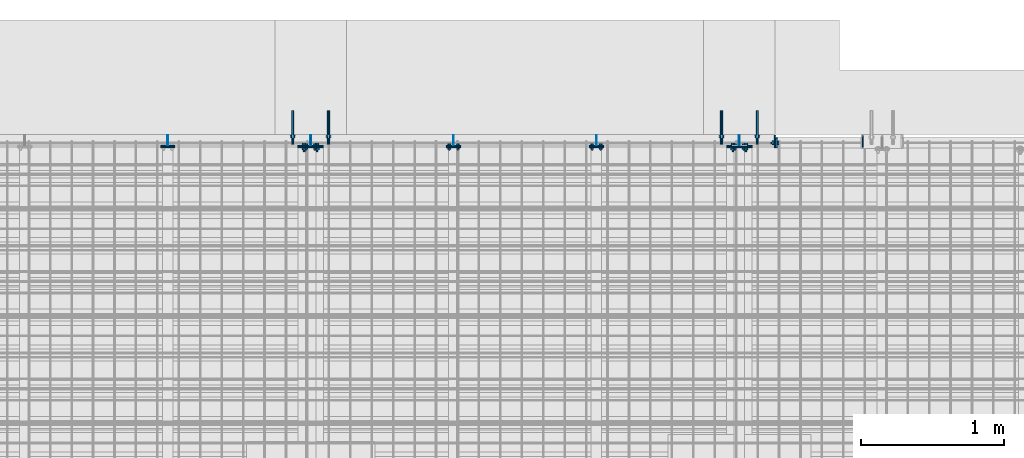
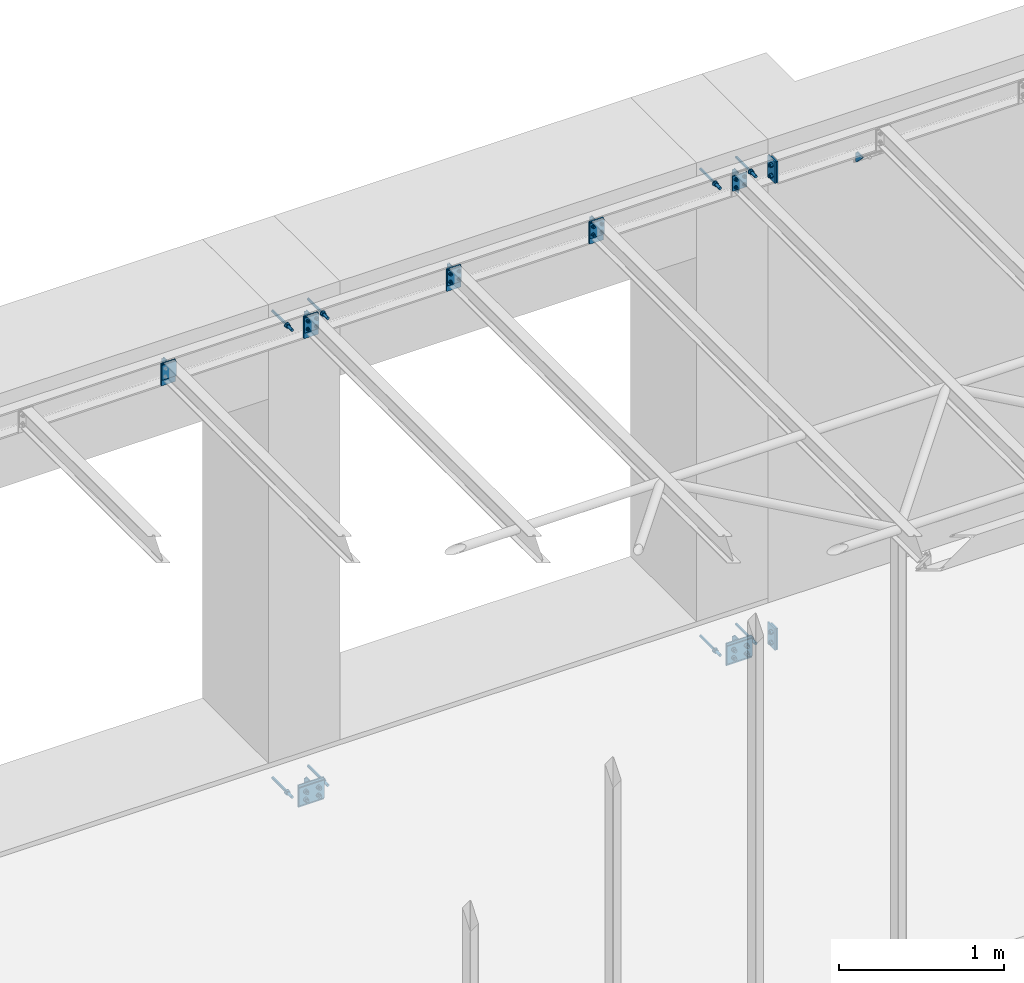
# One storey, part 24 of 27: 25 discrete accessories, 12 mechanical fasteners, 12 elements without a shape of their own.
"""IFC2X3 building model written with IfcOpenShell, lengths in millimetres."""

from ifc_helpers import new_model, si_unit, frame, frame_2d, origin_with_axes, origin_2d_with_axis, place, context, subcontext, project, spatial, polyline, circle_curve, parameter, trimmed, segment, composite_curve, circle, outline, extrude, source, transform, mapped, material, type_object, element, aggregate, save


model = new_model("IFC2X3")

# Units and contexts
model_context = context("Model", 3, precision=1e-05, world=origin_with_axes())
body_context = subcontext(model_context, "Body", "Model", "MODEL_VIEW")
ifc_project = project(units=[si_unit("LENGTHUNIT", "METRE", prefix="MILLI"), si_unit("AREAUNIT", "SQUARE_METRE"), si_unit("VOLUMEUNIT", "CUBIC_METRE"), si_unit("MASSUNIT", "GRAM", prefix="KILO"), si_unit("TIMEUNIT", "SECOND"), si_unit("PLANEANGLEUNIT", "RADIAN"), si_unit("SOLIDANGLEUNIT", "STERADIAN"), si_unit("THERMODYNAMICTEMPERATUREUNIT", "DEGREE_CELSIUS"), si_unit("LUMINOUSINTENSITYUNIT", "LUMEN")], contexts=[model_context])

# Site, building, storey
site_placement = place(None, origin_with_axes())
site = spatial("IfcSite", under=ifc_project, at=site_placement, Name="Undefined", CompositionType="ELEMENT")
building_placement = place(site_placement, origin_with_axes())
building = spatial("IfcBuilding", under=site, at=building_placement, Name="Undefined", CompositionType="ELEMENT")
storey_placement = place(building_placement, origin_with_axes())
storey = spatial("IfcBuildingStorey", under=building, at=storey_placement, Name="Undefined", CompositionType="ELEMENT", Elevation=0.0)

# Assembly, mechanical fastener
assembly_1_placement = place(storey_placement, origin_with_axes())
assembly_1 = element("IfcElementAssembly", 1, at=assembly_1_placement, inside=storey, Name="Steel Assembly", AssemblyPlace="NOTDEFINED", PredefinedType="RIGID_FRAME")
ifc_material_1 = material(Name="Undefined")
discrete_accessory_type_1 = type_object("IfcDiscreteAccessoryType", Name="Bolt assembly")
shared_shape_1 = source(origin_with_axes(), body_context, "Body", "SweptSolid", [
    extrude(circle(Radius=9.0, at=origin_2d_with_axis()), frame((0.0, -0.1, 0.0), z_axis=(0.0, 1.0, 0.0), x_axis=(1.0, 0.0, 0.0)), (0.0, 0.0, 1.0), 10.1),
    extrude(circle(Radius=9.0, at=origin_2d_with_axis()), frame((0.0, -9.9, 0.0), z_axis=(0.0, 1.0, 0.0), x_axis=(1.0, 0.0, 0.0)), (0.0, 0.0, 1.0), 10.0),
    extrude(outline(polyline([(13.85640646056, 0.0), (6.92820323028, 12.0000000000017), (-6.92820323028, 12.0000000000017), (-13.85640646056, 0.0), (-6.92820323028, -12.0000000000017), (6.92820323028, -12.0000000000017), (13.85640646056, 0.0)])), frame((0.0, -23.0, 0.0), z_axis=(0.0, 1.0, 0.0), x_axis=(1.0, 0.0, 0.0)), (0.0, 0.0, 1.0), 10.0),
    extrude(circle(Radius=8.0, at=origin_2d_with_axis()), frame((0.0, -13.0, 0.0), z_axis=(0.0, 1.0, 0.0), x_axis=(1.0, 0.0, 0.0)), (0.0, 0.0, 1.0), 50.0),
    extrude(circle(Radius=15.0, at=origin_2d_with_axis()), frame((0.0, -13.0, 0.0), z_axis=(0.0, 1.0, 0.0), x_axis=(1.0, 0.0, 0.0)), (0.0, 0.0, 1.0), 3.0),
    extrude(circle(Radius=15.0, at=origin_2d_with_axis()), frame((0.0, 10.0, 0.0), z_axis=(0.0, 1.0, 0.0), x_axis=(1.0, 0.0, 0.0)), (0.0, 0.0, 1.0), 3.0),
    extrude(outline(polyline([(15.4441197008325, 0.0), (7.72205985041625, 13.3750000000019), (-7.72205985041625, 13.3750000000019), (-15.4441197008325, 0.0), (-7.72205985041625, -13.3750000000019), (7.72205985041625, -13.3750000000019), (15.4441197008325, 0.0)])), frame((0.0, 13.0, 0.0), z_axis=(0.0, 1.0, 0.0), x_axis=(1.0, 0.0, 0.0)), (0.0, 0.0, 1.0), 13.0),
])
mechanical_fastener_1_placement = place(assembly_1_placement, frame((12305.0, 3800.0, -249.999999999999), z_axis=(0.0, 0.0, 1.0), x_axis=(0.0, 1.0, 0.0)))
mechanical_fastener_1 = element("IfcMechanicalFastener", 2, at=mechanical_fastener_1_placement, type_object=discrete_accessory_type_1, material=ifc_material_1, Name="Bolt assembly", NominalDiameter=16.0, NominalLength=50.0, context=body_context, shape_type="MappedRepresentation", body=[
    mapped(shared_shape_1, transform((0.0, 0.0, -40.0))),
    mapped(shared_shape_1, transform((0.0, 0.0, 40.0))),
])

assembly_2_placement = place(storey_placement, origin_with_axes())
assembly_2 = element("IfcElementAssembly", 3, at=assembly_2_placement, inside=storey, Name="Steel Assembly", AssemblyPlace="NOTDEFINED", PredefinedType="RIGID_FRAME")
mechanical_fastener_2_placement = place(assembly_2_placement, frame((12305.0, 3800.0, 3210.0), z_axis=(0.0, 0.0, 1.0), x_axis=(0.0, 1.0, 0.0)))
mechanical_fastener_2 = element("IfcMechanicalFastener", 4, at=mechanical_fastener_2_placement, type_object=discrete_accessory_type_1, material=ifc_material_1, Name="Bolt assembly", NominalDiameter=16.0, NominalLength=50.0, context=body_context, shape_type="MappedRepresentation", body=[
    mapped(shared_shape_1, transform((0.0, 0.0, -40.0))),
    mapped(shared_shape_1, transform((0.0, 0.0, 40.0))),
])

# Assembly, discrete accessory
assembly_3_placement = place(storey_placement, origin_with_axes())
assembly_3 = element("IfcElementAssembly", 5, at=assembly_3_placement, inside=storey, Name="Steel Assembly", AssemblyPlace="NOTDEFINED", PredefinedType="RIGID_FRAME")
ifc_material_2 = material(Name="STEEL/S235JR")
discrete_accessory_type_2 = type_object("IfcDiscreteAccessoryType", Name="PLECH")
discrete_accessory_1_placement = place(assembly_3_placement, frame((12300.0, 3855.0, -170.5), z_axis=(1.0, 0.0, 0.0), x_axis=(0.0, -1.0, 0.0)))
discrete_accessory_1 = element("IfcDiscreteAccessory", 6, at=discrete_accessory_1_placement, type_object=discrete_accessory_type_2, material=ifc_material_2, Name="PLECH", ObjectType="PL10*90", context=body_context, shape_type="SweptSolid", body=[
    extrude(outline(polyline([(0.0, 0.0), (90.0, 4.54747350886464e-13), (90.0, 159.0), (-3.63797880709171e-12, 159.0), (0.0, 0.0)])), frame((0.0, 0.0, -5.0), z_axis=(0.0, 0.0, 1.0), x_axis=(1.0, 0.0, 0.0)), (0.0, 0.0, 1.0), 10.0),
])

# Discrete accessory
discrete_accessory_2_placement = place(assembly_1_placement, frame((12310.0, 3835.0, -170.5), z_axis=(1.0, 0.0, 0.0), x_axis=(0.0, -1.0, 0.0)))
discrete_accessory_2 = element("IfcDiscreteAccessory", 7, at=discrete_accessory_2_placement, type_object=discrete_accessory_type_2, material=ifc_material_2, Name="PLECH", ObjectType="PL10*70", context=body_context, shape_type="SweptSolid", body=[
    extrude(outline(polyline([(0.0, 0.0), (70.0, 4.54747350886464e-13), (70.0, 159.0), (-3.63797880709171e-12, 159.0), (0.0, 0.0)])), frame((0.0, 0.0, -5.0), z_axis=(0.0, 0.0, 1.0), x_axis=(1.0, 0.0, 0.0)), (0.0, 0.0, 1.0), 10.0),
])

aggregate(assembly_1, [mechanical_fastener_1, discrete_accessory_2])

# Assembly, discrete accessory
assembly_4_placement = place(storey_placement, origin_with_axes())
assembly_4 = element("IfcElementAssembly", 8, at=assembly_4_placement, inside=storey, Name="Steel Assembly", AssemblyPlace="NOTDEFINED", PredefinedType="RIGID_FRAME")
discrete_accessory_3_placement = place(assembly_4_placement, frame((12300.0, 3855.0, 3289.5), z_axis=(1.0, 0.0, 0.0), x_axis=(0.0, -1.0, 0.0)))
discrete_accessory_3 = element("IfcDiscreteAccessory", 9, at=discrete_accessory_3_placement, type_object=discrete_accessory_type_2, material=ifc_material_2, Name="PLECH", ObjectType="PL10*90", context=body_context, shape_type="SweptSolid", body=[
    extrude(outline(polyline([(0.0, 0.0), (90.0, 4.54747350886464e-13), (90.0, 159.0), (-3.63797880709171e-12, 159.0), (0.0, 0.0)])), frame((0.0, 0.0, -5.0), z_axis=(0.0, 0.0, 1.0), x_axis=(1.0, 0.0, 0.0)), (0.0, 0.0, 1.0), 10.0),
])

# Discrete accessory
discrete_accessory_4_placement = place(assembly_2_placement, frame((12310.0, 3835.0, 3289.5), z_axis=(1.0, 0.0, 0.0), x_axis=(0.0, -1.0, 0.0)))
discrete_accessory_4 = element("IfcDiscreteAccessory", 10, at=discrete_accessory_4_placement, type_object=discrete_accessory_type_2, material=ifc_material_2, Name="PLECH", ObjectType="PL10*70", context=body_context, shape_type="SweptSolid", body=[
    extrude(outline(polyline([(0.0, 0.0), (70.0, 4.54747350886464e-13), (70.0, 159.0), (-3.63797880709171e-12, 159.0), (0.0, 0.0)])), frame((0.0, 0.0, -5.0), z_axis=(0.0, 0.0, 1.0), x_axis=(1.0, 0.0, 0.0)), (0.0, 0.0, 1.0), 10.0),
])

aggregate(assembly_2, [mechanical_fastener_2, discrete_accessory_4])

# Assembly, discrete accessory
assembly_5_placement = place(storey_placement, origin_with_axes())
assembly_5 = element("IfcElementAssembly", 11, at=assembly_5_placement, inside=storey, Name="Steel Assembly", AssemblyPlace="NOTDEFINED", PredefinedType="RIGID_FRAME")
discrete_accessory_5_placement = place(assembly_5_placement, frame((12914.0, 3770.0, 3110.0), z_axis=(-1.0, 0.0, 0.0), x_axis=(0.0, 1.0, 0.0)))
discrete_accessory_5 = element("IfcDiscreteAccessory", 12, at=discrete_accessory_5_placement, type_object=discrete_accessory_type_2, material=ifc_material_2, Name="PLECH", ObjectType="PL8*80", context=body_context, shape_type="SweptSolid", body=[
    extrude(outline(composite_curve([segment(polyline([(0.0, 0.0), (65.0, 0.0)]), True, "CONTINUOUS"), segment(trimmed(circle_curve(frame_2d((80.0, 0.0), x_axis=(-1.0, 0.0)), 15.0), [parameter(0.0)], [parameter(4.71238898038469)], False, "PARAMETER"), True, "CONTINUOUS"), segment(polyline([(80.0, 15.0), (80.0, 80.0), (70.0, 80.0), (0.0, 10.0), (0.0, 0.0)]), True, "DISCONTINUOUS")], self_intersect=False)), frame((0.0, 0.0, -4.0), z_axis=(0.0, 0.0, 1.0), x_axis=(1.0, 0.0, 0.0)), (0.0, 0.0, 1.0), 8.0),
])
aggregate(assembly_5, [discrete_accessory_5])

# Discrete accessory
discrete_accessory_6_placement = place(assembly_3_placement, frame((11960.0, 3780.0, -168.0), z_axis=(0.0, 1.0, 0.0), x_axis=(1.0, 0.0, 0.0)))
discrete_accessory_6 = element("IfcDiscreteAccessory", 13, at=discrete_accessory_6_placement, type_object=discrete_accessory_type_2, material=ifc_material_2, Name="PLECH", ObjectType="PL10*164", context=body_context, shape_type="SweptSolid", body=[
    extrude(outline(polyline([(0.0, 0.0), (180.0, 0.0), (180.0, 164.0), (0.0, 164.0), (0.0, 0.0)])), frame((0.0, 0.0, -5.0), z_axis=(0.0, 0.0, 1.0), x_axis=(1.0, 0.0, 0.0)), (0.0, 0.0, 1.0), 10.0),
])

discrete_accessory_7_placement = place(assembly_3_placement, frame((12050.0, 3785.0, -170.5), z_axis=(-1.0, 0.0, 0.0), x_axis=(0.0, 1.0, 0.0)))
discrete_accessory_7 = element("IfcDiscreteAccessory", 14, at=discrete_accessory_7_placement, type_object=discrete_accessory_type_2, material=ifc_material_2, Name="PLECH", ObjectType="PL8*70", context=body_context, shape_type="SweptSolid", body=[
    extrude(outline(composite_curve([segment(polyline([(0.0, 0.0), (49.5, 0.0)]), True, "CONTINUOUS"), segment(trimmed(circle_curve(frame_2d((69.5, 0.0), x_axis=(-1.0, 0.0)), 20.0), [parameter(0.0)], [parameter(4.71238898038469)], False, "PARAMETER"), True, "CONTINUOUS"), segment(polyline([(69.5, 20.0), (69.5, 139.0)]), True, "CONTINUOUS"), segment(trimmed(circle_curve(frame_2d((69.5, 159.0), x_axis=(0.0, -1.0)), 20.0), [parameter(0.0)], [parameter(4.71238898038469)], False, "PARAMETER"), True, "CONTINUOUS"), segment(polyline([(49.5, 159.0), (-3.63797880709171e-12, 159.0), (0.0, 0.0)]), True, "DISCONTINUOUS")], self_intersect=False)), frame((0.0, 0.0, -4.0), z_axis=(0.0, 0.0, 1.0), x_axis=(1.0, 0.0, 0.0)), (0.0, 0.0, 1.0), 8.0),
])

# Assembly, discrete accessory
assembly_6_placement = place(storey_placement, origin_with_axes())
assembly_6 = element("IfcElementAssembly", 15, at=assembly_6_placement, inside=storey, Name="Steel Assembly", AssemblyPlace="NOTDEFINED", PredefinedType="RIGID_FRAME")
discrete_accessory_8_placement = place(assembly_6_placement, frame((11960.0, 3771.0, -184.0), z_axis=(0.0, 1.0, 0.0), x_axis=(1.0, 0.0, 0.0)))
discrete_accessory_8 = element("IfcDiscreteAccessory", 16, at=discrete_accessory_8_placement, type_object=discrete_accessory_type_2, material=ifc_material_2, Name="PLECH", ObjectType="PL8*132", context=body_context, shape_type="SweptSolid", body=[
    extrude(outline(polyline([(0.0, 0.0), (180.0, 0.0), (180.0, 132.0), (0.0, 132.0), (0.0, 0.0)])), frame((0.0, 0.0, -4.0), z_axis=(0.0, 0.0, 1.0), x_axis=(1.0, 0.0, 0.0)), (0.0, 0.0, 1.0), 8.0),
])
aggregate(assembly_6, [discrete_accessory_8])

# Discrete accessory
discrete_accessory_9_placement = place(assembly_3_placement, frame((8960.0, 3780.0, -168.0), z_axis=(0.0, 1.0, 0.0), x_axis=(1.0, 0.0, 0.0)))
discrete_accessory_9 = element("IfcDiscreteAccessory", 17, at=discrete_accessory_9_placement, type_object=discrete_accessory_type_2, material=ifc_material_2, Name="PLECH", ObjectType="PL10*164", context=body_context, shape_type="SweptSolid", body=[
    extrude(outline(polyline([(0.0, 0.0), (180.0, 0.0), (180.0, 164.0), (0.0, 164.0), (0.0, 0.0)])), frame((0.0, 0.0, -5.0), z_axis=(0.0, 0.0, 1.0), x_axis=(1.0, 0.0, 0.0)), (0.0, 0.0, 1.0), 10.0),
])

discrete_accessory_10_placement = place(assembly_3_placement, frame((9050.0, 3785.0, -170.5), z_axis=(-1.0, 0.0, 0.0), x_axis=(0.0, 1.0, 0.0)))
discrete_accessory_10 = element("IfcDiscreteAccessory", 18, at=discrete_accessory_10_placement, type_object=discrete_accessory_type_2, material=ifc_material_2, Name="PLECH", ObjectType="PL8*70", context=body_context, shape_type="SweptSolid", body=[
    extrude(outline(composite_curve([segment(polyline([(0.0, 0.0), (49.5, 0.0)]), True, "CONTINUOUS"), segment(trimmed(circle_curve(frame_2d((69.5, 0.0), x_axis=(-1.0, 0.0)), 20.0), [parameter(0.0)], [parameter(4.71238898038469)], False, "PARAMETER"), True, "CONTINUOUS"), segment(polyline([(69.5, 20.0), (69.5, 139.0)]), True, "CONTINUOUS"), segment(trimmed(circle_curve(frame_2d((69.5, 159.0), x_axis=(0.0, -1.0)), 20.0), [parameter(0.0)], [parameter(4.71238898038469)], False, "PARAMETER"), True, "CONTINUOUS"), segment(polyline([(49.5, 159.0), (-3.63797880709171e-12, 159.0), (0.0, 0.0)]), True, "DISCONTINUOUS")], self_intersect=False)), frame((0.0, 0.0, -4.0), z_axis=(0.0, 0.0, 1.0), x_axis=(1.0, 0.0, 0.0)), (0.0, 0.0, 1.0), 8.0),
])

# Assembly, discrete accessory
assembly_7_placement = place(storey_placement, origin_with_axes())
assembly_7 = element("IfcElementAssembly", 19, at=assembly_7_placement, inside=storey, Name="Steel Assembly", AssemblyPlace="NOTDEFINED", PredefinedType="RIGID_FRAME")
discrete_accessory_11_placement = place(assembly_7_placement, frame((8960.0, 3771.0, -184.0), z_axis=(0.0, 1.0, 0.0), x_axis=(1.0, 0.0, 0.0)))
discrete_accessory_11 = element("IfcDiscreteAccessory", 20, at=discrete_accessory_11_placement, type_object=discrete_accessory_type_2, material=ifc_material_2, Name="PLECH", ObjectType="PL8*132", context=body_context, shape_type="SweptSolid", body=[
    extrude(outline(polyline([(0.0, 0.0), (180.0, 0.0), (180.0, 132.0), (0.0, 132.0), (0.0, 0.0)])), frame((0.0, 0.0, -4.0), z_axis=(0.0, 0.0, 1.0), x_axis=(1.0, 0.0, 0.0)), (0.0, 0.0, 1.0), 8.0),
])
aggregate(assembly_7, [discrete_accessory_11])

# Discrete accessory
discrete_accessory_12_placement = place(assembly_4_placement, frame((12050.0, 3785.0, 3289.5), z_axis=(-1.0, 0.0, 0.0), x_axis=(0.0, 1.0, 0.0)))
discrete_accessory_12 = element("IfcDiscreteAccessory", 21, at=discrete_accessory_12_placement, type_object=discrete_accessory_type_2, material=ifc_material_2, Name="PLECH", ObjectType="PL6*70", context=body_context, shape_type="SweptSolid", body=[
    extrude(outline(composite_curve([segment(polyline([(0.0, 0.0), (49.5, 0.0)]), True, "CONTINUOUS"), segment(trimmed(circle_curve(frame_2d((69.5, 0.0), x_axis=(-1.0, 0.0)), 20.0), [parameter(0.0)], [parameter(4.71238898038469)], False, "PARAMETER"), True, "CONTINUOUS"), segment(polyline([(69.5, 20.0), (69.5, 139.0)]), True, "CONTINUOUS"), segment(trimmed(circle_curve(frame_2d((69.5, 159.0), x_axis=(0.0, -1.0)), 20.0), [parameter(0.0)], [parameter(4.71238898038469)], False, "PARAMETER"), True, "CONTINUOUS"), segment(polyline([(49.5, 159.0), (-3.63797880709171e-12, 159.0), (0.0, 0.0)]), True, "DISCONTINUOUS")], self_intersect=False)), frame((0.0, 0.0, -3.0), z_axis=(0.0, 0.0, 1.0), x_axis=(1.0, 0.0, 0.0)), (0.0, 0.0, 1.0), 6.0),
])

# Assembly, discrete accessory
assembly_8_placement = place(storey_placement, origin_with_axes())
assembly_8 = element("IfcElementAssembly", 22, at=assembly_8_placement, inside=storey, Name="Steel Assembly", AssemblyPlace="NOTDEFINED", PredefinedType="RIGID_FRAME")
discrete_accessory_13_placement = place(assembly_8_placement, frame((12000.0, 3771.0, 3175.0), z_axis=(0.0, 1.0, 0.0), x_axis=(0.0, 0.0, 1.0)))
discrete_accessory_13 = element("IfcDiscreteAccessory", 23, at=discrete_accessory_13_placement, type_object=discrete_accessory_type_2, material=ifc_material_2, Name="PLECH", ObjectType="PL8*100", context=body_context, shape_type="SweptSolid", body=[
    extrude(outline(polyline([(0.0, 0.0), (110.0, 0.0), (110.0, 100.0), (-9.09494701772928e-13, 100.0), (0.0, 0.0)])), frame((0.0, 0.0, -4.0), z_axis=(0.0, 0.0, 1.0), x_axis=(1.0, 0.0, 0.0)), (0.0, 0.0, 1.0), 8.0),
])
aggregate(assembly_8, [discrete_accessory_13])

# Discrete accessory
discrete_accessory_14_placement = place(assembly_4_placement, frame((11050.0, 3785.0, 3289.5), z_axis=(-1.0, 0.0, 0.0), x_axis=(0.0, 1.0, 0.0)))
discrete_accessory_14 = element("IfcDiscreteAccessory", 24, at=discrete_accessory_14_placement, type_object=discrete_accessory_type_2, material=ifc_material_2, Name="PLECH", ObjectType="PL6*70", context=body_context, shape_type="SweptSolid", body=[
    extrude(outline(composite_curve([segment(polyline([(0.0, 0.0), (49.5, 0.0)]), True, "CONTINUOUS"), segment(trimmed(circle_curve(frame_2d((69.5, 0.0), x_axis=(-1.0, 0.0)), 20.0), [parameter(0.0)], [parameter(4.71238898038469)], False, "PARAMETER"), True, "CONTINUOUS"), segment(polyline([(69.5, 20.0), (69.5, 139.0)]), True, "CONTINUOUS"), segment(trimmed(circle_curve(frame_2d((69.5, 159.0), x_axis=(0.0, -1.0)), 20.0), [parameter(0.0)], [parameter(4.71238898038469)], False, "PARAMETER"), True, "CONTINUOUS"), segment(polyline([(49.5, 159.0), (-3.63797880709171e-12, 159.0), (0.0, 0.0)]), True, "DISCONTINUOUS")], self_intersect=False)), frame((0.0, 0.0, -3.0), z_axis=(0.0, 0.0, 1.0), x_axis=(1.0, 0.0, 0.0)), (0.0, 0.0, 1.0), 6.0),
])

# Assembly, discrete accessory
assembly_9_placement = place(storey_placement, origin_with_axes())
assembly_9 = element("IfcElementAssembly", 25, at=assembly_9_placement, inside=storey, Name="Steel Assembly", AssemblyPlace="NOTDEFINED", PredefinedType="RIGID_FRAME")
discrete_accessory_15_placement = place(assembly_9_placement, frame((11000.0, 3771.0, 3175.0), z_axis=(0.0, 1.0, 0.0), x_axis=(0.0, 0.0, 1.0)))
discrete_accessory_15 = element("IfcDiscreteAccessory", 26, at=discrete_accessory_15_placement, type_object=discrete_accessory_type_2, material=ifc_material_2, Name="PLECH", ObjectType="PL8*100", context=body_context, shape_type="SweptSolid", body=[
    extrude(outline(polyline([(0.0, 0.0), (110.0, 0.0), (110.0, 100.0), (-9.09494701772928e-13, 100.0), (0.0, 0.0)])), frame((0.0, 0.0, -4.0), z_axis=(0.0, 0.0, 1.0), x_axis=(1.0, 0.0, 0.0)), (0.0, 0.0, 1.0), 8.0),
])
aggregate(assembly_9, [discrete_accessory_15])

# Discrete accessory
discrete_accessory_16_placement = place(assembly_4_placement, frame((11000.0, 3780.0, 3128.0), z_axis=(0.0, 1.0, 0.0), x_axis=(0.0, 0.0, 1.0)))
discrete_accessory_16 = element("IfcDiscreteAccessory", 27, at=discrete_accessory_16_placement, type_object=discrete_accessory_type_2, material=ifc_material_2, Name="PLECH", ObjectType="PL10*100", context=body_context, shape_type="SweptSolid", body=[
    extrude(outline(polyline([(0.0, 0.0), (164.0, 4.54747350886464e-13), (164.0, 100.0), (-9.09494701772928e-13, 100.0), (0.0, 0.0)])), frame((0.0, 0.0, -5.0), z_axis=(0.0, 0.0, 1.0), x_axis=(1.0, 0.0, 0.0)), (0.0, 0.0, 1.0), 10.0),
])

discrete_accessory_17_placement = place(assembly_4_placement, frame((10050.0, 3785.0, 3289.5), z_axis=(-1.0, 0.0, 0.0), x_axis=(0.0, 1.0, 0.0)))
discrete_accessory_17 = element("IfcDiscreteAccessory", 28, at=discrete_accessory_17_placement, type_object=discrete_accessory_type_2, material=ifc_material_2, Name="PLECH", ObjectType="PL6*70", context=body_context, shape_type="SweptSolid", body=[
    extrude(outline(composite_curve([segment(polyline([(0.0, 0.0), (49.5, 0.0)]), True, "CONTINUOUS"), segment(trimmed(circle_curve(frame_2d((69.5, 0.0), x_axis=(-1.0, 0.0)), 20.0), [parameter(0.0)], [parameter(4.71238898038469)], False, "PARAMETER"), True, "CONTINUOUS"), segment(polyline([(69.5, 20.0), (69.5, 139.0)]), True, "CONTINUOUS"), segment(trimmed(circle_curve(frame_2d((69.5, 159.0), x_axis=(0.0, -1.0)), 20.0), [parameter(0.0)], [parameter(4.71238898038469)], False, "PARAMETER"), True, "CONTINUOUS"), segment(polyline([(49.5, 159.0), (-3.63797880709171e-12, 159.0), (0.0, 0.0)]), True, "DISCONTINUOUS")], self_intersect=False)), frame((0.0, 0.0, -3.0), z_axis=(0.0, 0.0, 1.0), x_axis=(1.0, 0.0, 0.0)), (0.0, 0.0, 1.0), 6.0),
])

# Assembly, discrete accessory
assembly_10_placement = place(storey_placement, origin_with_axes())
assembly_10 = element("IfcElementAssembly", 29, at=assembly_10_placement, inside=storey, Name="Steel Assembly", AssemblyPlace="NOTDEFINED", PredefinedType="RIGID_FRAME")
discrete_accessory_18_placement = place(assembly_10_placement, frame((10000.0, 3771.0, 3175.0), z_axis=(0.0, 1.0, 0.0), x_axis=(0.0, 0.0, 1.0)))
discrete_accessory_18 = element("IfcDiscreteAccessory", 30, at=discrete_accessory_18_placement, type_object=discrete_accessory_type_2, material=ifc_material_2, Name="PLECH", ObjectType="PL8*100", context=body_context, shape_type="SweptSolid", body=[
    extrude(outline(polyline([(0.0, 0.0), (110.0, 0.0), (110.0, 100.0), (-9.09494701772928e-13, 100.0), (0.0, 0.0)])), frame((0.0, 0.0, -4.0), z_axis=(0.0, 0.0, 1.0), x_axis=(1.0, 0.0, 0.0)), (0.0, 0.0, 1.0), 8.0),
])
aggregate(assembly_10, [discrete_accessory_18])

# Discrete accessory
discrete_accessory_19_placement = place(assembly_4_placement, frame((10000.0, 3780.0, 3128.0), z_axis=(0.0, 1.0, 0.0), x_axis=(0.0, 0.0, 1.0)))
discrete_accessory_19 = element("IfcDiscreteAccessory", 31, at=discrete_accessory_19_placement, type_object=discrete_accessory_type_2, material=ifc_material_2, Name="PLECH", ObjectType="PL10*100", context=body_context, shape_type="SweptSolid", body=[
    extrude(outline(polyline([(0.0, 0.0), (164.0, 4.54747350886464e-13), (164.0, 100.0), (-9.09494701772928e-13, 100.0), (0.0, 0.0)])), frame((0.0, 0.0, -5.0), z_axis=(0.0, 0.0, 1.0), x_axis=(1.0, 0.0, 0.0)), (0.0, 0.0, 1.0), 10.0),
])

discrete_accessory_20_placement = place(assembly_4_placement, frame((9050.0, 3785.0, 3289.5), z_axis=(-1.0, 0.0, 0.0), x_axis=(0.0, 1.0, 0.0)))
discrete_accessory_20 = element("IfcDiscreteAccessory", 32, at=discrete_accessory_20_placement, type_object=discrete_accessory_type_2, material=ifc_material_2, Name="PLECH", ObjectType="PL6*70", context=body_context, shape_type="SweptSolid", body=[
    extrude(outline(composite_curve([segment(polyline([(0.0, 0.0), (49.5, 0.0)]), True, "CONTINUOUS"), segment(trimmed(circle_curve(frame_2d((69.5, 0.0), x_axis=(-1.0, 0.0)), 20.0), [parameter(0.0)], [parameter(4.71238898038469)], False, "PARAMETER"), True, "CONTINUOUS"), segment(polyline([(69.5, 20.0), (69.5, 139.0)]), True, "CONTINUOUS"), segment(trimmed(circle_curve(frame_2d((69.5, 159.0), x_axis=(0.0, -1.0)), 20.0), [parameter(0.0)], [parameter(4.71238898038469)], False, "PARAMETER"), True, "CONTINUOUS"), segment(polyline([(49.5, 159.0), (-3.63797880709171e-12, 159.0), (0.0, 0.0)]), True, "DISCONTINUOUS")], self_intersect=False)), frame((0.0, 0.0, -3.0), z_axis=(0.0, 0.0, 1.0), x_axis=(1.0, 0.0, 0.0)), (0.0, 0.0, 1.0), 6.0),
])

# Assembly, discrete accessory
assembly_11_placement = place(storey_placement, origin_with_axes())
assembly_11 = element("IfcElementAssembly", 33, at=assembly_11_placement, inside=storey, Name="Steel Assembly", AssemblyPlace="NOTDEFINED", PredefinedType="RIGID_FRAME")
discrete_accessory_21_placement = place(assembly_11_placement, frame((9000.0, 3771.0, 3175.0), z_axis=(0.0, 1.0, 0.0), x_axis=(0.0, 0.0, 1.0)))
discrete_accessory_21 = element("IfcDiscreteAccessory", 34, at=discrete_accessory_21_placement, type_object=discrete_accessory_type_2, material=ifc_material_2, Name="PLECH", ObjectType="PL8*100", context=body_context, shape_type="SweptSolid", body=[
    extrude(outline(polyline([(0.0, 0.0), (110.0, 0.0), (110.0, 100.0), (-9.09494701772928e-13, 100.0), (0.0, 0.0)])), frame((0.0, 0.0, -4.0), z_axis=(0.0, 0.0, 1.0), x_axis=(1.0, 0.0, 0.0)), (0.0, 0.0, 1.0), 8.0),
])
aggregate(assembly_11, [discrete_accessory_21])

# Discrete accessory
discrete_accessory_22_placement = place(assembly_4_placement, frame((9000.0, 3780.0, 3128.0), z_axis=(0.0, 1.0, 0.0), x_axis=(0.0, 0.0, 1.0)))
discrete_accessory_22 = element("IfcDiscreteAccessory", 35, at=discrete_accessory_22_placement, type_object=discrete_accessory_type_2, material=ifc_material_2, Name="PLECH", ObjectType="PL10*100", context=body_context, shape_type="SweptSolid", body=[
    extrude(outline(polyline([(0.0, 0.0), (164.0, 4.54747350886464e-13), (164.0, 100.0), (-9.09494701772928e-13, 100.0), (0.0, 0.0)])), frame((0.0, 0.0, -5.0), z_axis=(0.0, 0.0, 1.0), x_axis=(1.0, 0.0, 0.0)), (0.0, 0.0, 1.0), 10.0),
])

discrete_accessory_23_placement = place(assembly_4_placement, frame((8050.0, 3785.0, 3289.5), z_axis=(-1.0, 0.0, 0.0), x_axis=(0.0, 1.0, 0.0)))
discrete_accessory_23 = element("IfcDiscreteAccessory", 36, at=discrete_accessory_23_placement, type_object=discrete_accessory_type_2, material=ifc_material_2, Name="PLECH", ObjectType="PL6*70", context=body_context, shape_type="SweptSolid", body=[
    extrude(outline(composite_curve([segment(polyline([(0.0, 0.0), (49.5, 0.0)]), True, "CONTINUOUS"), segment(trimmed(circle_curve(frame_2d((69.5, 0.0), x_axis=(-1.0, 0.0)), 20.0), [parameter(0.0)], [parameter(4.71238898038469)], False, "PARAMETER"), True, "CONTINUOUS"), segment(polyline([(69.5, 20.0), (69.5, 139.0)]), True, "CONTINUOUS"), segment(trimmed(circle_curve(frame_2d((69.5, 159.0), x_axis=(0.0, -1.0)), 20.0), [parameter(0.0)], [parameter(4.71238898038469)], False, "PARAMETER"), True, "CONTINUOUS"), segment(polyline([(49.5, 159.0), (-3.63797880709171e-12, 159.0), (0.0, 0.0)]), True, "DISCONTINUOUS")], self_intersect=False)), frame((0.0, 0.0, -3.0), z_axis=(0.0, 0.0, 1.0), x_axis=(1.0, 0.0, 0.0)), (0.0, 0.0, 1.0), 6.0),
])

# Assembly, discrete accessory
assembly_12_placement = place(storey_placement, origin_with_axes())
assembly_12 = element("IfcElementAssembly", 37, at=assembly_12_placement, inside=storey, Name="Steel Assembly", AssemblyPlace="NOTDEFINED", PredefinedType="RIGID_FRAME")
discrete_accessory_24_placement = place(assembly_12_placement, frame((8000.0, 3771.0, 3175.0), z_axis=(0.0, 1.0, 0.0), x_axis=(0.0, 0.0, 1.0)))
discrete_accessory_24 = element("IfcDiscreteAccessory", 38, at=discrete_accessory_24_placement, type_object=discrete_accessory_type_2, material=ifc_material_2, Name="PLECH", ObjectType="PL8*100", context=body_context, shape_type="SweptSolid", body=[
    extrude(outline(polyline([(0.0, 0.0), (110.0, 0.0), (110.0, 100.0), (-9.09494701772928e-13, 100.0), (0.0, 0.0)])), frame((0.0, 0.0, -4.0), z_axis=(0.0, 0.0, 1.0), x_axis=(1.0, 0.0, 0.0)), (0.0, 0.0, 1.0), 8.0),
])
aggregate(assembly_12, [discrete_accessory_24])

# Discrete accessory
discrete_accessory_25_placement = place(assembly_4_placement, frame((8000.0, 3780.0, 3128.0), z_axis=(0.0, 1.0, 0.0), x_axis=(0.0, 0.0, 1.0)))
discrete_accessory_25 = element("IfcDiscreteAccessory", 39, at=discrete_accessory_25_placement, type_object=discrete_accessory_type_2, material=ifc_material_2, Name="PLECH", ObjectType="PL10*100", context=body_context, shape_type="SweptSolid", body=[
    extrude(outline(polyline([(0.0, 0.0), (164.0, 4.54747350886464e-13), (164.0, 100.0), (-9.09494701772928e-13, 100.0), (0.0, 0.0)])), frame((0.0, 0.0, -5.0), z_axis=(0.0, 0.0, 1.0), x_axis=(1.0, 0.0, 0.0)), (0.0, 0.0, 1.0), 10.0),
])

# Mechanical fastener
shared_shape_2 = source(origin_with_axes(), body_context, "Body", "SweptSolid", [
    extrude(circle(Radius=11.0, at=origin_2d_with_axis()), frame((0.0, -5.5, 0.0), z_axis=(0.0, 1.0, 0.0), x_axis=(1.0, 0.0, 0.0)), (0.0, 0.0, 1.0), 5.6),
    extrude(outline(polyline([(9.81495457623, 0.0), (4.907477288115, 8.5000000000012), (-4.907477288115, 8.5000000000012), (-9.81495457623, 0.0), (-4.907477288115, -8.5000000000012), (4.907477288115, -8.5000000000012), (9.81495457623, 0.0)])), frame((0.0, -173.5, 0.0), z_axis=(0.0, 1.0, 0.0), x_axis=(1.0, 0.0, 0.0)), (0.0, 0.0, 1.0), 168.0),
    extrude(circle(Radius=10.0, at=origin_2d_with_axis()), frame((0.0, -5.5, 0.0), z_axis=(0.0, 1.0, 0.0), x_axis=(1.0, 0.0, 0.0)), (0.0, 0.0, 1.0), 72.0),
    extrude(circle(Radius=18.5, at=origin_2d_with_axis()), frame((0.0, 0.0, 0.0), z_axis=(0.0, 1.0, 0.0), x_axis=(1.0, 0.0, 0.0)), (0.0, 0.0, 1.0), 3.0),
    extrude(outline(polyline([(17.3205080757, 0.0), (8.66025403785, 15.0000000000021), (-8.66025403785, 15.0000000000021), (-17.3205080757, 0.0), (-8.66025403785, -15.0000000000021), (8.66025403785, -15.0000000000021), (17.3205080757, 0.0)])), frame((0.0, 3.0, 0.0), z_axis=(0.0, 1.0, 0.0), x_axis=(1.0, 0.0, 0.0)), (0.0, 0.0, 1.0), 16.0),
])
mechanical_fastener_3_placement = place(assembly_4_placement, frame((11925.0, 3854.5, 3210.0), z_axis=(0.0, 0.0, -1.0), x_axis=(1.0, 0.0, 0.0)))
mechanical_fastener_3 = element("IfcMechanicalFastener", 40, at=mechanical_fastener_3_placement, type_object=discrete_accessory_type_1, material=ifc_material_1, Name="Bolt assembly", NominalDiameter=20.0, NominalLength=72.0, context=body_context, shape_type="MappedRepresentation", body=[
    mapped(shared_shape_2, transform((0.0, 0.0, 0.0))),
    mapped(shared_shape_2, transform((250.0, 0.0, 0.0))),
])

mechanical_fastener_4_placement = place(assembly_4_placement, frame((8925.0, 3854.5, 3210.0), z_axis=(0.0, 0.0, -1.0), x_axis=(1.0, 0.0, 0.0)))
mechanical_fastener_4 = element("IfcMechanicalFastener", 41, at=mechanical_fastener_4_placement, type_object=discrete_accessory_type_1, material=ifc_material_1, Name="Bolt assembly", NominalDiameter=20.0, NominalLength=72.0, context=body_context, shape_type="MappedRepresentation", body=[
    mapped(shared_shape_2, transform((0.0, 0.0, 0.0))),
    mapped(shared_shape_2, transform((250.0, 0.0, 0.0))),
])

mechanical_fastener_5_placement = place(assembly_3_placement, frame((11925.0, 3854.5, -250.0), z_axis=(0.0, 0.0, -1.0), x_axis=(1.0, 0.0, 0.0)))
mechanical_fastener_5 = element("IfcMechanicalFastener", 42, at=mechanical_fastener_5_placement, type_object=discrete_accessory_type_1, material=ifc_material_1, Name="Bolt assembly", NominalDiameter=20.0, NominalLength=72.0, context=body_context, shape_type="MappedRepresentation", body=[
    mapped(shared_shape_2, transform((0.0, 0.0, 0.0))),
    mapped(shared_shape_2, transform((250.0, 0.0, 0.0))),
])

mechanical_fastener_6_placement = place(assembly_3_placement, frame((8925.0, 3854.5, -250.0), z_axis=(0.0, 0.0, -1.0), x_axis=(1.0, 0.0, 0.0)))
mechanical_fastener_6 = element("IfcMechanicalFastener", 43, at=mechanical_fastener_6_placement, type_object=discrete_accessory_type_1, material=ifc_material_1, Name="Bolt assembly", NominalDiameter=20.0, NominalLength=72.0, context=body_context, shape_type="MappedRepresentation", body=[
    mapped(shared_shape_2, transform((0.0, 0.0, 0.0))),
    mapped(shared_shape_2, transform((250.0, 0.0, 0.0))),
])

shared_shape_3 = source(origin_with_axes(), body_context, "Body", "SweptSolid", [
    extrude(circle(Radius=9.0, at=origin_2d_with_axis()), frame((0.0, -0.1, 0.0), z_axis=(0.0, 1.0, 0.0), x_axis=(1.0, 0.0, 0.0)), (0.0, 0.0, 1.0), 8.1),
    extrude(circle(Radius=9.0, at=origin_2d_with_axis()), frame((0.0, -9.9, 0.0), z_axis=(0.0, 1.0, 0.0), x_axis=(1.0, 0.0, 0.0)), (0.0, 0.0, 1.0), 10.0),
    extrude(outline(polyline([(13.85640646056, 0.0), (6.92820323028, 12.0000000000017), (-6.92820323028, 12.0000000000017), (-13.85640646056, 0.0), (-6.92820323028, -12.0000000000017), (6.92820323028, -12.0000000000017), (13.85640646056, 0.0)])), frame((0.0, -23.0, 0.0), z_axis=(0.0, 1.0, 0.0), x_axis=(1.0, 0.0, 0.0)), (0.0, 0.0, 1.0), 10.0),
    extrude(circle(Radius=8.0, at=origin_2d_with_axis()), frame((0.0, -13.0, 0.0), z_axis=(0.0, 1.0, 0.0), x_axis=(1.0, 0.0, 0.0)), (0.0, 0.0, 1.0), 50.0),
    extrude(circle(Radius=15.0, at=origin_2d_with_axis()), frame((0.0, -13.0, 0.0), z_axis=(0.0, 1.0, 0.0), x_axis=(1.0, 0.0, 0.0)), (0.0, 0.0, 1.0), 3.0),
    extrude(circle(Radius=15.0, at=origin_2d_with_axis()), frame((0.0, 8.0, 0.0), z_axis=(0.0, 1.0, 0.0), x_axis=(1.0, 0.0, 0.0)), (0.0, 0.0, 1.0), 3.0),
    extrude(outline(polyline([(15.4441197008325, 0.0), (7.72205985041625, 13.3750000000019), (-7.72205985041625, 13.3750000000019), (-15.4441197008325, 0.0), (-7.72205985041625, -13.3750000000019), (7.72205985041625, -13.3750000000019), (15.4441197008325, 0.0)])), frame((0.0, 11.0, 0.0), z_axis=(0.0, 1.0, 0.0), x_axis=(1.0, 0.0, 0.0)), (0.0, 0.0, 1.0), 13.0),
])
mechanical_fastener_7_placement = place(assembly_3_placement, frame((12005.0, 3775.0, -250.0), z_axis=(0.0, 0.0, -1.0), x_axis=(1.0, 0.0, 0.0)))
mechanical_fastener_7 = element("IfcMechanicalFastener", 44, at=mechanical_fastener_7_placement, type_object=discrete_accessory_type_1, material=ifc_material_1, Name="Bolt assembly", NominalDiameter=16.0, NominalLength=50.0, context=body_context, shape_type="MappedRepresentation", body=[
    mapped(shared_shape_3, transform((0.0, 0.0, -30.0))),
    mapped(shared_shape_3, transform((90.0, 0.0, -30.0))),
    mapped(shared_shape_3, transform((0.0, 0.0, 30.0))),
    mapped(shared_shape_3, transform((90.0, 0.0, 30.0))),
])

mechanical_fastener_8_placement = place(assembly_3_placement, frame((9005.0, 3775.0, -250.0), z_axis=(0.0, 0.0, -1.0), x_axis=(1.0, 0.0, 0.0)))
mechanical_fastener_8 = element("IfcMechanicalFastener", 45, at=mechanical_fastener_8_placement, type_object=discrete_accessory_type_1, material=ifc_material_1, Name="Bolt assembly", NominalDiameter=16.0, NominalLength=50.0, context=body_context, shape_type="MappedRepresentation", body=[
    mapped(shared_shape_3, transform((0.0, 0.0, -30.0))),
    mapped(shared_shape_3, transform((90.0, 0.0, -30.0))),
    mapped(shared_shape_3, transform((0.0, 0.0, 30.0))),
    mapped(shared_shape_3, transform((90.0, 0.0, 30.0))),
])

aggregate(assembly_3, [discrete_accessory_1, mechanical_fastener_5, mechanical_fastener_6, mechanical_fastener_7, discrete_accessory_6, discrete_accessory_7, mechanical_fastener_8, discrete_accessory_9, discrete_accessory_10])

shared_shape_4 = source(origin_with_axes(), body_context, "Body", "SweptSolid", [
    extrude(circle(Radius=6.5, at=origin_2d_with_axis()), frame((0.0, -0.1, 0.0), z_axis=(0.0, 1.0, 0.0), x_axis=(1.0, 0.0, 0.0)), (0.0, 0.0, 1.0), 8.1),
    extrude(circle(Radius=6.5, at=origin_2d_with_axis()), frame((0.0, -9.9, 0.0), z_axis=(0.0, 1.0, 0.0), x_axis=(1.0, 0.0, 0.0)), (0.0, 0.0, 1.0), 10.0),
    extrude(outline(polyline([(10.96965511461, 0.0), (5.484827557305, 9.50000000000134), (-5.484827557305, 9.50000000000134), (-10.96965511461, 0.0), (-5.484827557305, -9.50000000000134), (5.484827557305, -9.50000000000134), (10.96965511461, 0.0)])), frame((0.0, -20.0, 0.0), z_axis=(0.0, 1.0, 0.0), x_axis=(1.0, 0.0, 0.0)), (0.0, 0.0, 1.0), 7.5),
    extrude(circle(Radius=6.0, at=origin_2d_with_axis()), frame((0.0, -12.5, 0.0), z_axis=(0.0, 1.0, 0.0), x_axis=(1.0, 0.0, 0.0)), (0.0, 0.0, 1.0), 40.0),
    extrude(circle(Radius=12.0, at=origin_2d_with_axis()), frame((0.0, -12.5, 0.0), z_axis=(0.0, 1.0, 0.0), x_axis=(1.0, 0.0, 0.0)), (0.0, 0.0, 1.0), 2.5),
    extrude(circle(Radius=12.0, at=origin_2d_with_axis()), frame((0.0, 8.0, 0.0), z_axis=(0.0, 1.0, 0.0), x_axis=(1.0, 0.0, 0.0)), (0.0, 0.0, 1.0), 2.5),
    extrude(outline(polyline([(10.96965511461, 0.0), (5.484827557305, 9.50000000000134), (-5.484827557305, 9.50000000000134), (-10.96965511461, 0.0), (-5.484827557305, -9.50000000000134), (5.484827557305, -9.50000000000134), (10.96965511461, 0.0)])), frame((0.0, 10.5, 0.0), z_axis=(0.0, 1.0, 0.0), x_axis=(1.0, 0.0, 0.0)), (0.0, 0.0, 1.0), 10.0),
])
mechanical_fastener_9_placement = place(assembly_4_placement, frame((12020.0, 3775.0, 3230.0), z_axis=(0.0, 0.0, -1.0), x_axis=(1.0, 0.0, 0.0)))
mechanical_fastener_9 = element("IfcMechanicalFastener", 46, at=mechanical_fastener_9_placement, type_object=discrete_accessory_type_1, material=ifc_material_1, Name="Bolt assembly", NominalDiameter=12.0, NominalLength=40.0, context=body_context, shape_type="MappedRepresentation", body=[
    mapped(shared_shape_4, transform((0.0, 0.0, -30.0))),
    mapped(shared_shape_4, transform((60.0, 0.0, -30.0))),
    mapped(shared_shape_4, transform((0.0, 0.0, 30.0))),
    mapped(shared_shape_4, transform((60.0, 0.0, 30.0))),
])

mechanical_fastener_10_placement = place(assembly_4_placement, frame((11020.0, 3775.0, 3230.0), z_axis=(0.0, 0.0, -1.0), x_axis=(1.0, 0.0, 0.0)))
mechanical_fastener_10 = element("IfcMechanicalFastener", 47, at=mechanical_fastener_10_placement, type_object=discrete_accessory_type_1, material=ifc_material_1, Name="Bolt assembly", NominalDiameter=12.0, NominalLength=40.0, context=body_context, shape_type="MappedRepresentation", body=[
    mapped(shared_shape_4, transform((0.0, 0.0, -30.0))),
    mapped(shared_shape_4, transform((60.0, 0.0, -30.0))),
    mapped(shared_shape_4, transform((0.0, 0.0, 30.0))),
    mapped(shared_shape_4, transform((60.0, 0.0, 30.0))),
])

mechanical_fastener_11_placement = place(assembly_4_placement, frame((10020.0, 3775.0, 3230.0), z_axis=(0.0, 0.0, -1.0), x_axis=(1.0, 0.0, 0.0)))
mechanical_fastener_11 = element("IfcMechanicalFastener", 48, at=mechanical_fastener_11_placement, type_object=discrete_accessory_type_1, material=ifc_material_1, Name="Bolt assembly", NominalDiameter=12.0, NominalLength=40.0, context=body_context, shape_type="MappedRepresentation", body=[
    mapped(shared_shape_4, transform((0.0, 0.0, -30.0))),
    mapped(shared_shape_4, transform((60.0, 0.0, -30.0))),
    mapped(shared_shape_4, transform((0.0, 0.0, 30.0))),
    mapped(shared_shape_4, transform((60.0, 0.0, 30.0))),
])

mechanical_fastener_12_placement = place(assembly_4_placement, frame((9020.0, 3775.0, 3230.0), z_axis=(0.0, 0.0, -1.0), x_axis=(1.0, 0.0, 0.0)))
mechanical_fastener_12 = element("IfcMechanicalFastener", 49, at=mechanical_fastener_12_placement, type_object=discrete_accessory_type_1, material=ifc_material_1, Name="Bolt assembly", NominalDiameter=12.0, NominalLength=40.0, context=body_context, shape_type="MappedRepresentation", body=[
    mapped(shared_shape_4, transform((0.0, 0.0, -30.0))),
    mapped(shared_shape_4, transform((60.0, 0.0, -30.0))),
    mapped(shared_shape_4, transform((0.0, 0.0, 30.0))),
    mapped(shared_shape_4, transform((60.0, 0.0, 30.0))),
])

aggregate(assembly_4, [discrete_accessory_3, mechanical_fastener_3, mechanical_fastener_4, mechanical_fastener_9, discrete_accessory_12, mechanical_fastener_10, discrete_accessory_14, discrete_accessory_16, mechanical_fastener_11, discrete_accessory_17, discrete_accessory_19, mechanical_fastener_12, discrete_accessory_20, discrete_accessory_22, discrete_accessory_23, discrete_accessory_25])

save(model, "model.ifc")
